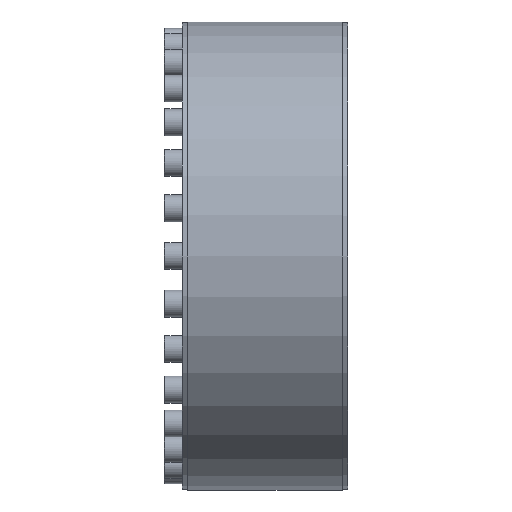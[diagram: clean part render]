
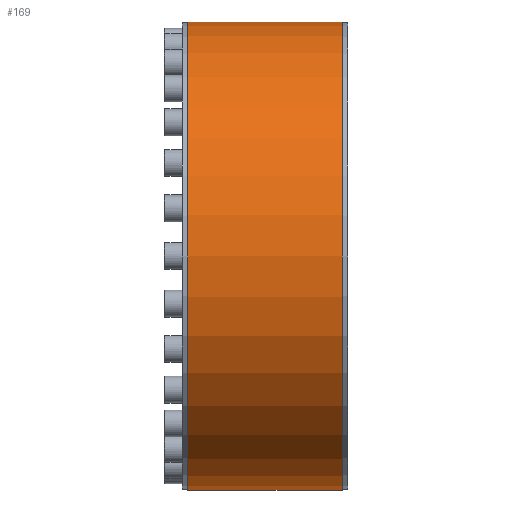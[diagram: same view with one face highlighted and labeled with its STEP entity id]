
A CAD part, left-side view. The second image highlights one B-rep face of the part: STEP entity #169.
In plain terms, the highlighted cylindrical face has radius 287.5 mm (diameter 575 mm), a partial arc.
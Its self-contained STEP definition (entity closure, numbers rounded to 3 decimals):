
#20 = ORIENTED_EDGE ( 'NONE', *, *, #3309, .T. ) ;
#169 = ADVANCED_FACE ( 'NONE', ( #7062 ), #6927, .T. ) ;
#362 = CARTESIAN_POINT ( 'NONE',  ( 0., 95., 0. ) ) ;
#442 = CARTESIAN_POINT ( 'NONE',  ( 0., 0., 0. ) ) ;
#667 = CARTESIAN_POINT ( 'NONE',  ( 0., 95., 287.5 ) ) ;
#875 = DIRECTION ( 'NONE',  ( 0., -1., 0. ) ) ;
#1066 = DIRECTION ( 'NONE',  ( 0., 0., -1. ) ) ;
#1387 = CARTESIAN_POINT ( 'NONE',  ( 0., -95., -287.5 ) ) ;
#1404 = VECTOR ( 'NONE', #875, 1000. ) ;
#1545 = EDGE_LOOP ( 'NONE', ( #9556, #20, #4056, #8684 ) ) ;
#1924 = CARTESIAN_POINT ( 'NONE',  ( 0., 0., 287.5 ) ) ;
#1967 = VERTEX_POINT ( 'NONE', #7949 ) ;
#2314 = EDGE_CURVE ( 'NONE', #1967, #4534, #7122, .T. ) ;
#2349 = CIRCLE ( 'NONE', #8583, 287.5 ) ;
#2413 = CARTESIAN_POINT ( 'NONE',  ( 0., -95., 0. ) ) ;
#3294 = LINE ( 'NONE', #1924, #8525 ) ;
#3309 = EDGE_CURVE ( 'NONE', #7491, #1967, #9877, .T. ) ;
#3939 = DIRECTION ( 'NONE',  ( 0., 0., -1. ) ) ;
#4056 = ORIENTED_EDGE ( 'NONE', *, *, #2314, .T. ) ;
#4211 = VERTEX_POINT ( 'NONE', #9127 ) ;
#4343 = EDGE_CURVE ( 'NONE', #7491, #4211, #3294, .T. ) ;
#4534 = VERTEX_POINT ( 'NONE', #1387 ) ;
#5110 = AXIS2_PLACEMENT_3D ( 'NONE', #362, #5709, #1066 ) ;
#5709 = DIRECTION ( 'NONE',  ( 0., -1., 0. ) ) ;
#5785 = DIRECTION ( 'NONE',  ( 0., 0., -1. ) ) ;
#6927 = CYLINDRICAL_SURFACE ( 'NONE', #8151, 287.5 ) ;
#7062 = FACE_OUTER_BOUND ( 'NONE', #1545, .T. ) ;
#7122 = LINE ( 'NONE', #9331, #1404 ) ;
#7491 = VERTEX_POINT ( 'NONE', #667 ) ;
#7949 = CARTESIAN_POINT ( 'NONE',  ( 0., 95., -287.5 ) ) ;
#8151 = AXIS2_PLACEMENT_3D ( 'NONE', #442, #9469, #5785 ) ;
#8250 = EDGE_CURVE ( 'NONE', #4211, #4534, #2349, .T. ) ;
#8505 = DIRECTION ( 'NONE',  ( 0., -1., 0. ) ) ;
#8525 = VECTOR ( 'NONE', #8854, 1000. ) ;
#8583 = AXIS2_PLACEMENT_3D ( 'NONE', #2413, #8505, #3939 ) ;
#8684 = ORIENTED_EDGE ( 'NONE', *, *, #8250, .F. ) ;
#8854 = DIRECTION ( 'NONE',  ( 0., -1., 0. ) ) ;
#9127 = CARTESIAN_POINT ( 'NONE',  ( 0., -95., 287.5 ) ) ;
#9331 = CARTESIAN_POINT ( 'NONE',  ( 0., 0., -287.5 ) ) ;
#9469 = DIRECTION ( 'NONE',  ( 0., -1., 0. ) ) ;
#9556 = ORIENTED_EDGE ( 'NONE', *, *, #4343, .F. ) ;
#9877 = CIRCLE ( 'NONE', #5110, 287.5 ) ;
